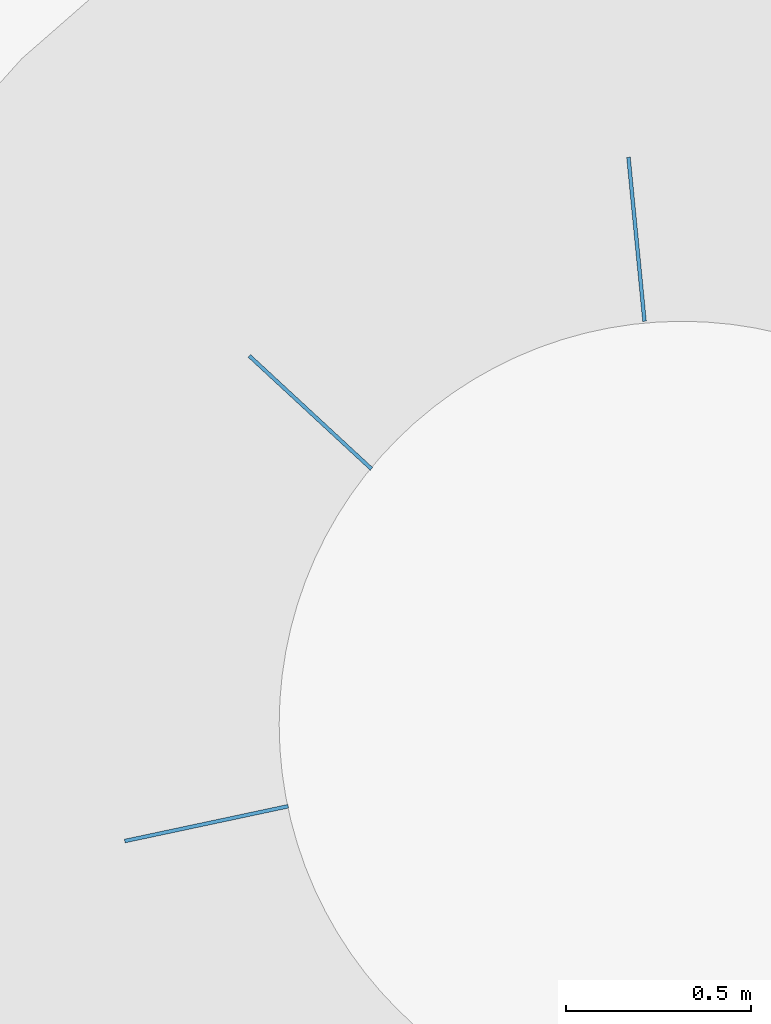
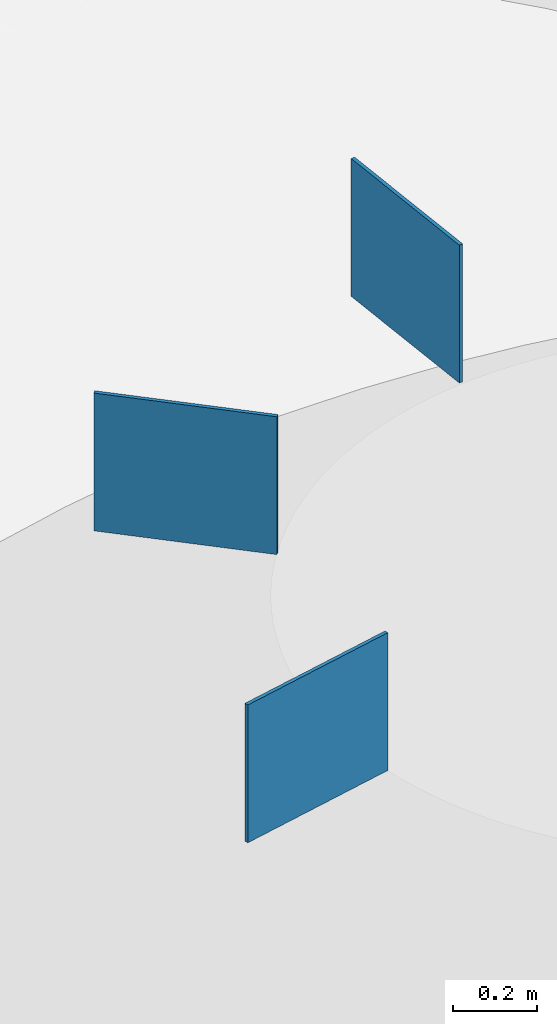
# One storey, part 40 of 75: 3 walls.
"""IFC2X3 building model written with IfcOpenShell, lengths in metres."""

from ifc_helpers import new_model, entity, si_unit, converted_unit, derived_unit, direction, frame, frame_2d, origin, place, context, subcontext, project, spatial, rectangle, extrude, material, layer, layer_set, layer_usage, type_object, element, save


model = new_model("IFC2X3")

# Units and contexts
model_context = context("Model", 3, precision=1e-05, world=origin(), true_north=direction((6.123031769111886e-17, 1.0)))
body_context = subcontext(model_context, "Body", "Model", "MODEL_VIEW")
ifc_project = project(units=[si_unit("LENGTHUNIT", "METRE"), si_unit("AREAUNIT", "SQUARE_METRE"), si_unit("VOLUMEUNIT", "CUBIC_METRE"), converted_unit("PLANEANGLEUNIT", "DEGREE", entity("IfcRatioMeasure", 0.017453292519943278), si_unit("PLANEANGLEUNIT", "RADIAN"), dimensions=[0, 0, 0, 0, 0, 0, 0]), si_unit("MASSUNIT", "GRAM", prefix="KILO"), derived_unit("MASSDENSITYUNIT", [(si_unit("MASSUNIT", "GRAM", prefix="KILO"), 1), (si_unit("LENGTHUNIT", "METRE"), -3)]), derived_unit("IONCONCENTRATIONUNIT", [(si_unit("MASSUNIT", "GRAM", prefix="KILO"), 1), (si_unit("LENGTHUNIT", "METRE"), -3)]), derived_unit("MOMENTOFINERTIAUNIT", [(si_unit("LENGTHUNIT", "METRE"), 4)]), si_unit("TIMEUNIT", "SECOND"), si_unit("FREQUENCYUNIT", "HERTZ"), si_unit("THERMODYNAMICTEMPERATUREUNIT", "DEGREE_CELSIUS"), derived_unit("THERMALTRANSMITTANCEUNIT", [(si_unit("MASSUNIT", "GRAM", prefix="KILO"), 1), (si_unit("THERMODYNAMICTEMPERATUREUNIT", "KELVIN"), -1), (si_unit("TIMEUNIT", "SECOND"), -3)]), derived_unit("THERMALCONDUCTANCEUNIT", [(si_unit("MASSUNIT", "GRAM", prefix="KILO"), 1), (si_unit("THERMODYNAMICTEMPERATUREUNIT", "KELVIN"), -1), (si_unit("TIMEUNIT", "SECOND"), -3), (si_unit("LENGTHUNIT", "METRE"), 1)]), derived_unit("VOLUMETRICFLOWRATEUNIT", [(si_unit("LENGTHUNIT", "METRE"), 3), (si_unit("TIMEUNIT", "SECOND"), -1)]), derived_unit("MASSFLOWRATEUNIT", [(si_unit("MASSUNIT", "GRAM", prefix="KILO"), 1), (si_unit("TIMEUNIT", "SECOND"), -1)]), derived_unit("ROTATIONALFREQUENCYUNIT", [(si_unit("TIMEUNIT", "SECOND"), -1)]), si_unit("ELECTRICCURRENTUNIT", "AMPERE"), si_unit("ELECTRICVOLTAGEUNIT", "VOLT"), si_unit("POWERUNIT", "WATT"), si_unit("FORCEUNIT", "NEWTON", prefix="KILO"), si_unit("ILLUMINANCEUNIT", "LUX"), si_unit("LUMINOUSFLUXUNIT", "LUMEN"), si_unit("LUMINOUSINTENSITYUNIT", "CANDELA"), derived_unit("USERDEFINED", [(si_unit("MASSUNIT", "GRAM", prefix="KILO"), -1), (si_unit("LENGTHUNIT", "METRE"), -2), (si_unit("TIMEUNIT", "SECOND"), 3), (si_unit("LUMINOUSFLUXUNIT", "LUMEN"), 1)]), derived_unit("USERDEFINED", [(si_unit("MASSUNIT", "GRAM", prefix="KILO"), 1), (si_unit("TIMEUNIT", "SECOND"), -3), (si_unit("LENGTHUNIT", "METRE"), 3), (si_unit("ELECTRICCURRENTUNIT", "AMPERE"), -2)]), derived_unit("SOUNDPOWERUNIT", [(si_unit("MASSUNIT", "GRAM", prefix="KILO"), 1), (si_unit("TIMEUNIT", "SECOND"), -3), (si_unit("LENGTHUNIT", "METRE"), 2)]), derived_unit("SOUNDPRESSUREUNIT", [(si_unit("MASSUNIT", "GRAM", prefix="KILO"), 1), (si_unit("LENGTHUNIT", "METRE"), -1), (si_unit("TIMEUNIT", "SECOND"), -2)]), derived_unit("LINEARVELOCITYUNIT", [(si_unit("LENGTHUNIT", "METRE"), 1), (si_unit("TIMEUNIT", "SECOND"), -1)]), si_unit("PRESSUREUNIT", "PASCAL"), derived_unit("USERDEFINED", [(si_unit("MASSUNIT", "GRAM", prefix="KILO"), 1), (si_unit("LENGTHUNIT", "METRE"), -2), (si_unit("TIMEUNIT", "SECOND"), -2)]), derived_unit("LINEARFORCEUNIT", [(si_unit("MASSUNIT", "GRAM", prefix="KILO"), 1), (si_unit("TIMEUNIT", "SECOND"), -2)]), derived_unit("PLANARFORCEUNIT", [(si_unit("MASSUNIT", "GRAM", prefix="KILO"), 1), (si_unit("LENGTHUNIT", "METRE"), -1), (si_unit("TIMEUNIT", "SECOND"), -2)]), derived_unit("SPECIFICHEATCAPACITYUNIT", [(si_unit("THERMODYNAMICTEMPERATUREUNIT", "KELVIN"), -1), (si_unit("LENGTHUNIT", "METRE"), 2), (si_unit("TIMEUNIT", "SECOND"), -2)]), derived_unit("HEATINGVALUEUNIT", [(si_unit("LENGTHUNIT", "METRE"), 2), (si_unit("TIMEUNIT", "SECOND"), -2)]), derived_unit("VAPORPERMEABILITYUNIT", [(si_unit("LENGTHUNIT", "METRE"), -1), (si_unit("TIMEUNIT", "SECOND"), 1)]), derived_unit("DYNAMICVISCOSITYUNIT", [(si_unit("MASSUNIT", "GRAM", prefix="KILO"), 1), (si_unit("TIMEUNIT", "SECOND"), -1), (si_unit("LENGTHUNIT", "METRE"), -1)]), derived_unit("THERMALEXPANSIONCOEFFICIENTUNIT", [(si_unit("THERMODYNAMICTEMPERATUREUNIT", "KELVIN"), -1)]), derived_unit("MODULUSOFELASTICITYUNIT", [(si_unit("MASSUNIT", "GRAM", prefix="KILO"), 1), (si_unit("LENGTHUNIT", "METRE"), -1), (si_unit("TIMEUNIT", "SECOND"), -2)]), derived_unit("ISOTHERMALMOISTURECAPACITYUNIT", [(si_unit("LENGTHUNIT", "METRE"), 3), (si_unit("MASSUNIT", "GRAM", prefix="KILO"), -1)]), derived_unit("MOISTUREDIFFUSIVITYUNIT", [(si_unit("TIMEUNIT", "SECOND"), -1), (si_unit("LENGTHUNIT", "METRE"), 2)])], contexts=[model_context])

# Site, building, storey
site_placement = place(None, origin())
site = spatial("IfcSite", under=ifc_project, at=site_placement, Name="Default", CompositionType="ELEMENT")
building_placement = place(site_placement, origin())
building = spatial("IfcBuilding", under=site, at=building_placement, Name="Projeto", CompositionType="ELEMENT")
storey_placement = place(building_placement, origin())
storey = spatial("IfcBuildingStorey", under=building, at=storey_placement, Name="Nível 1", CompositionType="ELEMENT", Elevation=0.0)

# Walls
ifc_material = material(Name=".ARQ.PIS - CONTRAPISO.ARMADO")
ifc_layer = layer(ifc_material, 0.01)
ifc_layer_set = layer_set([ifc_layer], Name="Parede básica:15cm 2")
ifc_layer_usage = layer_usage(ifc_layer_set, "AXIS2", "NEGATIVE", 0.005000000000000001)
wall_type = type_object("IfcWallType", Name="Parede básica:15cm 2", PredefinedType="STANDARD", material=ifc_layer_set)
wall_1_placement = place(storey_placement, frame((25.98389089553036, -11.970624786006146, 0.0), z_axis=(0.0, 0.0, 1.0), x_axis=(-0.9780494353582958, -0.20837298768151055, 0.0)))
element("IfcWallStandardCase", 1, at=wall_1_placement, inside=storey, type_object=wall_type, material=ifc_layer_usage, Name="Parede básica:15cm 2", ObjectType="Parede básica:15cm 2", context=body_context, shape_type="SweptSolid", body=[
    extrude(rectangle(XDim=0.4515486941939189, YDim=0.010000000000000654, at=frame_2d((0.22577434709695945, -4.570996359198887e-16), x_axis=(-1.0, 0.0))), origin(), (0.0, 0.0, 1.0), 0.4028341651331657),
])
wall_2_placement = place(storey_placement, frame((26.20900256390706, -11.059027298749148, 0.0), z_axis=(0.0, 0.0, 1.0), x_axis=(-0.7340453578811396, 0.679100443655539, 0.0)))
element("IfcWallStandardCase", 2, at=wall_2_placement, inside=storey, type_object=wall_type, material=ifc_layer_usage, Name="Parede básica:15cm 2", ObjectType="Parede básica:15cm 2", context=body_context, shape_type="SweptSolid", body=[
    extrude(rectangle(XDim=0.44999999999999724, YDim=0.009999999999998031, at=frame_2d((0.22499999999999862, -3.616898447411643e-16), x_axis=(-1.0, 0.0))), origin(), (0.0, 0.0, 1.0), 0.4028341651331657),
])
wall_3_placement = place(storey_placement, frame((26.946887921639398, -10.659922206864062, 0.0), z_axis=(0.0, 0.0, 1.0), x_axis=(-0.09735572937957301, 0.9952496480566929, 0.0)))
element("IfcWallStandardCase", 3, at=wall_3_placement, inside=storey, type_object=wall_type, material=ifc_layer_usage, Name="Parede básica:15cm 2", ObjectType="Parede básica:15cm 2", context=body_context, shape_type="SweptSolid", body=[
    extrude(rectangle(XDim=0.4451441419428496, YDim=0.01000000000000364, at=frame_2d((0.2225720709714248, 3.469446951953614e-18), x_axis=(-1.0, 0.0))), origin(), (0.0, 0.0, 1.0), 0.4028341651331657),
])

save(model, "model.ifc")
